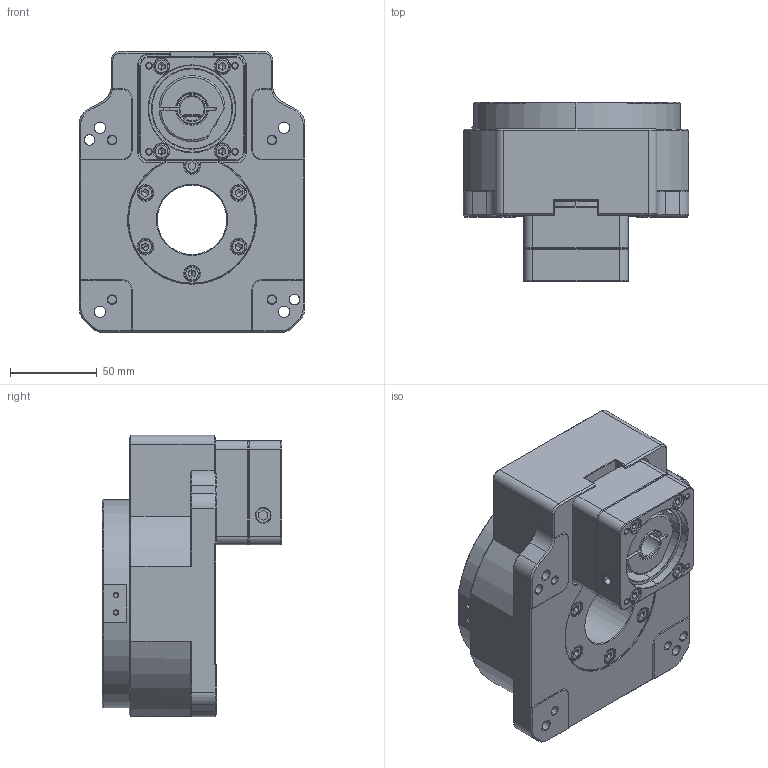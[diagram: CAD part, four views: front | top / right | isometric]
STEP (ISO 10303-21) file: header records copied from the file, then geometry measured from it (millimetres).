
FILE_DESCRIPTION (( 'STEP AP203' ), '1' );
FILE_NAME ('GSB130-10K-SV.STEP', '2017-09-15T08:40:47', ( 'Microsoft' ), ( 'Microsoft' ), 'SwSTEP 2.0', 'SolidWorks 2016', '' );
FILE_SCHEMA (( 'CONFIG_CONTROL_DESIGN' ));
Length unit declared in the file: millimetre
Products named in the file (1): GSB130-10K-SV
Bounding box: 130 x 103.5 x 162 mm (x, y, z)
Surface area: 111516.4 mm2 (no closed solid volume)
Topology: 0 solids, 25 shells, 610 faces, 1715 edges, 1082 vertices
Faces by surface type: plane 205, cone 190, cylinder 172, torus 43
Entity records: 19900 total; most frequent: CARTESIAN_POINT 4108, DIRECTION 3504, ORIENTED_EDGE 2937, EDGE_CURVE 1689, AXIS2_PLACEMENT_3D 1310, VERTEX_POINT 1082, VECTOR 884, LINE 884
